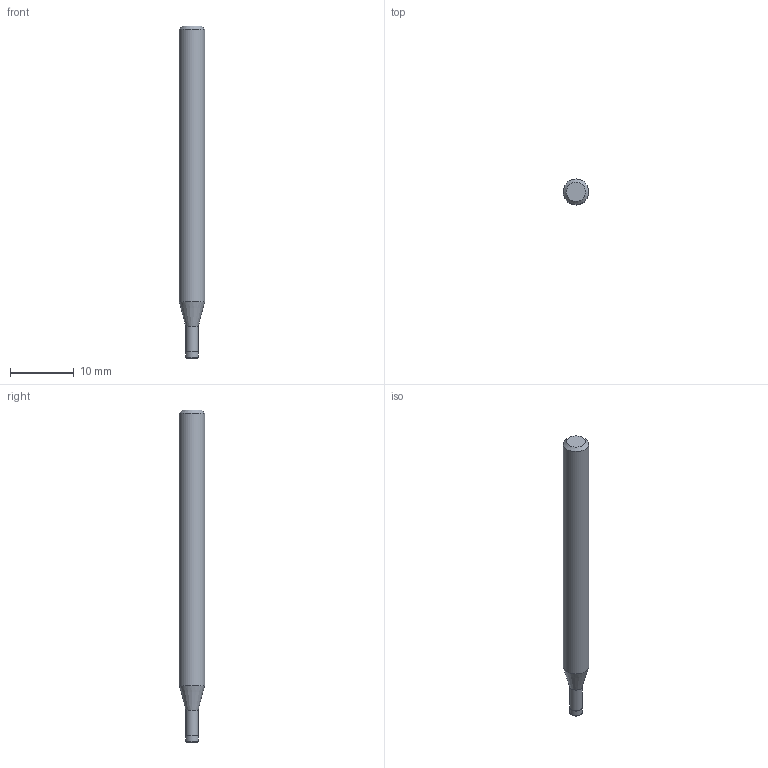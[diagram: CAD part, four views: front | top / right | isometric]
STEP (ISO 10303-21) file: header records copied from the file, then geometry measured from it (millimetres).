
FILE_DESCRIPTION((''),'2;1');
FILE_NAME('C:\Users\nsx150\AppData\Local\Temp\Mastercam 2021\LJSIDMOTM8\TEMP.step','2021-08-03T14:22:04',(''),(''),'STEP Write','Mastercam 2021 ... CNC Software, Inc.','');
FILE_SCHEMA(('AUTOMOTIVE_DESIGN'));
Length unit declared in the file: millimetre
Products named in the file (1): None
Bounding box: 4 x 4 x 52 mm (x, y, z)
Volume: 583.5 mm3; surface area: 627.6 mm2
Topology: 2 solids, 2 shells, 10 faces, 14 edges, 8 vertices
Faces by surface type: plane 4, cylinder 3, cone 2, torus 1
Full cylindrical faces by diameter (mm): 1.94 x1, 2 x1, 4 x1
Entity records: 232 total; most frequent: DIRECTION 40, CARTESIAN_POINT 28, AXIS2_PLACEMENT_3D 20, ORIENTED_EDGE 16, EDGE_LOOP 16, STYLED_ITEM 13, ADVANCED_FACE 10, FACE_BOUND 10
